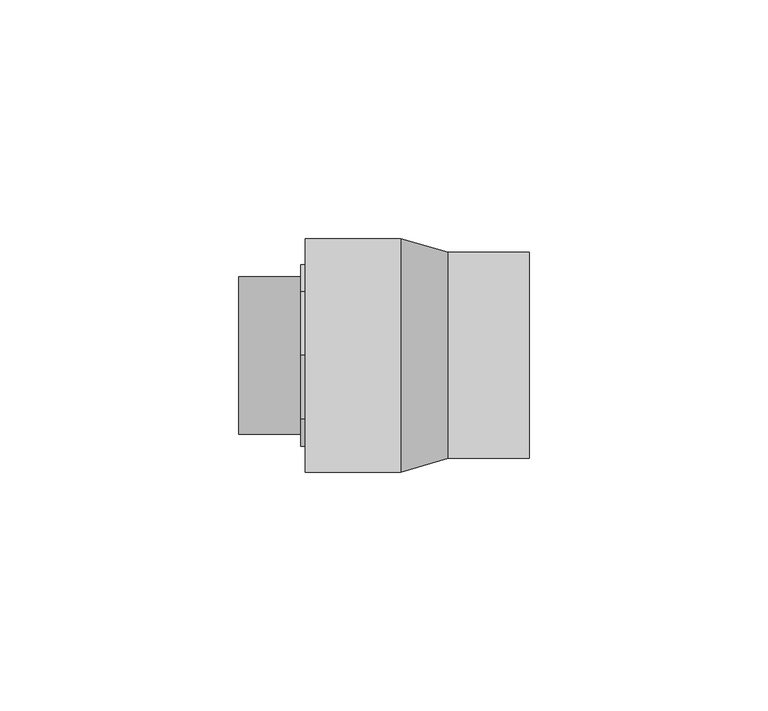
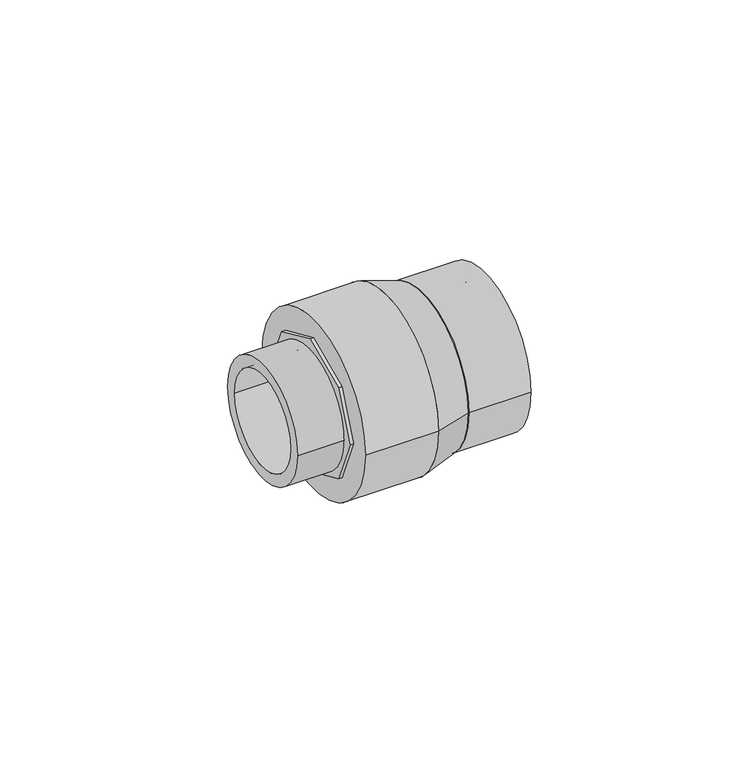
"""IFC4 building model written with IfcOpenShell, lengths in millimetres: pipe fitting geometry, 22_Муфта комбинировання под ключ НР : Белый цвет."""

from ifc_helpers import new_model, si_unit, point, frame, origin, origin_2d, place, context, project, spatial, polyline, circle_curve, trimmed, segment, composite_curve, outline, extrude, source, transform, mapped, element, save
from ifc_brep_helpers import plane_surface, cylinder_surface, revolved_surface, advanced_brep


def pipe_fitting_2798e5e2(model_context):
    return source(origin(), model_context, "Body", "SolidModel", [
        extrude(outline(polyline([(13.4350288, 13.1616066), (19.0, 0.0), (13.4350288, -13.1616066), (0.0, -19.1706932), (-13.4350288, -13.1616066), (-19.0, 0.0), (-13.4350288, 13.1616066), (0.0, 19.1706932), (13.4350288, 13.1616066)]), holes=[composite_curve([segment(trimmed(circle_curve(origin_2d(), 13.25), [point((-13.25, 0.0))], [point((13.25, 0.0))], True, "CARTESIAN"), True, "CONTINUOUS"), segment(trimmed(circle_curve(origin_2d(), 13.25), [point((13.25, 0.0))], [point((-13.25, 0.0))], True, "CARTESIAN"), True, "CONTINUOUS")], self_intersect=False)]), frame((-24.5, 0.0, 0.0), z_axis=(1.0, 0.0, 0.0), x_axis=(0.0, 1.0, 0.0)), (0.0, 0.0, 1.0), 1.0),
        advanced_brep(
        [(-37.5, 16.5, 0.0), (-37.5, -16.5, 0.0), (-37.5, 13.25, 0.0), (-37.5, -13.25, 0.0), (-8.0, 16.5, 0.0), (-8.0, -16.5, 0.0), (-8.0, 13.25, 0.0), (-8.0, -13.25, 0.0), (-24.5, -13.25, 0.0), (-23.5, -13.25, 0.0), (-23.5, 13.25, 0.0), (-24.5, 13.25, 0.0)],
        [
            (0, 1, circle_curve(frame((-37.5, 0.0, 0.0), z_axis=(-1.0, 0.0, 0.0), x_axis=(0.0, -1.0, 0.0)), 16.5)),
            (1, 0, circle_curve(frame((-37.5, 0.0, 0.0), z_axis=(-1.0, 0.0, 0.0), x_axis=(0.0, -1.0, 0.0)), 16.5)),
            (2, 3, circle_curve(frame((-37.5, 0.0, 0.0), z_axis=(1.0, 0.0, 0.0), x_axis=(0.0, -1.0, 0.0)), 13.25)),
            (3, 2, circle_curve(frame((-37.5, 0.0, 0.0), z_axis=(1.0, 0.0, 0.0), x_axis=(0.0, -1.0, 0.0)), 13.25)),
            (4, 5, circle_curve(frame((-8.0, 0.0, 0.0), z_axis=(1.0, 0.0, 0.0), x_axis=(0.0, -1.0, 0.0)), 16.5)),
            (5, 4, circle_curve(frame((-8.0, 0.0, 0.0), z_axis=(1.0, 0.0, 0.0), x_axis=(0.0, -1.0, 0.0)), 16.5)),
            (6, 7, circle_curve(frame((-8.0, 0.0, 0.0), z_axis=(-1.0, 0.0, 0.0), x_axis=(0.0, -1.0, 0.0)), 13.25)),
            (7, 6, circle_curve(frame((-8.0, 0.0, 0.0), z_axis=(-1.0, 0.0, 0.0), x_axis=(0.0, -1.0, 0.0)), 13.25)),
            (3, 8),
            (8, 9),
            (9, 7),
            (6, 10),
            (10, 11),
            (11, 2),
            (1, 5),
            (4, 0),
        ],
        [
            plane_surface(frame((-37.5, -13.25, 0.0), z_axis=(-1.0, 0.0, 0.0), x_axis=(0.0, 0.0, -1.0))),
            plane_surface(frame((-8.0, -13.25, 0.0), z_axis=(1.0, 0.0, 0.0), x_axis=(0.0, 0.0, 1.0))),
            revolved_surface(polyline([(-8.0, -13.25, 0.0), (-37.5, -13.25, 0.0)]), (-8.0, 0.0, 0.0), (1.0, 0.0, 0.0)),
            cylinder_surface(frame((-23.5, 0.0, 0.0), z_axis=(-1.0, 0.0, 0.0), x_axis=(0.0, -1.0, 0.0)), 16.5),
        ],
        [
            (0, [[1, 2], [3, 4]]),
            (1, [[5, 6], [7, 8]]),
            (2, [[-4, 9, 10, 11, -7, 12, 13, 14]]),
            (2, [[-3, -14, -13, -12, -8, -11, -10, -9]]),
            (3, [[-2, 15, -5, 16]]),
            (3, [[-1, -16, -6, -15]]),
        ],
    ),
        extrude(outline(composite_curve([segment(trimmed(circle_curve(origin_2d(), 24.5), [point((-24.5, 0.0))], [point((24.5, 0.0))], False, "CARTESIAN"), True, "CONTINUOUS"), segment(trimmed(circle_curve(origin_2d(), 24.5), [point((24.5, 0.0))], [point((-24.5, 0.0))], False, "CARTESIAN"), True, "CONTINUOUS")], self_intersect=False), holes=[composite_curve([segment(trimmed(circle_curve(origin_2d(), 13.25), [point((-13.25, 0.0))], [point((13.25, 0.0))], True, "CARTESIAN"), True, "CONTINUOUS"), segment(trimmed(circle_curve(origin_2d(), 13.25), [point((13.25, 0.0))], [point((-13.25, 0.0))], True, "CARTESIAN"), True, "CONTINUOUS")], self_intersect=False)]), frame((-23.5, 0.0, 0.0), z_axis=(1.0, 0.0, 0.0), x_axis=(0.0, 1.0, 0.0)), (0.0, 0.0, 1.0), 20.0),
        extrude(outline(composite_curve([segment(trimmed(circle_curve(origin_2d(), 21.6), [point((-21.6, 0.0))], [point((21.6, 0.0))], False, "CARTESIAN"), True, "CONTINUOUS"), segment(trimmed(circle_curve(origin_2d(), 21.6), [point((21.6, 0.0))], [point((-21.6, 0.0))], False, "CARTESIAN"), True, "CONTINUOUS")], self_intersect=False), holes=[composite_curve([segment(trimmed(circle_curve(origin_2d(), 16.0), [point((-16.0, 0.0))], [point((16.0, 0.0))], True, "CARTESIAN"), True, "CONTINUOUS"), segment(trimmed(circle_curve(origin_2d(), 16.0), [point((16.0, 0.0))], [point((-16.0, 0.0))], True, "CARTESIAN"), True, "CONTINUOUS")], self_intersect=False)]), frame((6.5, 0.0, 0.0), z_axis=(1.0, 0.0, 0.0), x_axis=(0.0, 1.0, 0.0)), (0.0, 0.0, 1.0), 17.0),
        advanced_brep(
        [(6.5, -21.6, 0.0), (6.5, 21.6, 0.0), (6.5, 16.0, 0.0), (6.5, -16.0, 0.0), (-3.5, -24.5, 0.0), (-3.5, 24.5, 0.0), (-3.5, -13.25, 0.0), (-3.5, 13.25, 0.0)],
        [
            (0, 1, circle_curve(frame((6.5, 0.0, 0.0), z_axis=(1.0, 0.0, 0.0), x_axis=(0.0, -1.0, 0.0)), 21.6)),
            (1, 0, circle_curve(frame((6.5, 0.0, 0.0), z_axis=(1.0, 0.0, 0.0), x_axis=(0.0, 1.0, 0.0)), 21.6)),
            (2, 3, circle_curve(frame((6.5, 0.0, 0.0), z_axis=(-1.0, 0.0, 0.0), x_axis=(0.0, -1.0, 0.0)), 16.0)),
            (3, 2, circle_curve(frame((6.5, 0.0, 0.0), z_axis=(-1.0, 0.0, 0.0), x_axis=(0.0, 1.0, 0.0)), 16.0)),
            (4, 5, circle_curve(frame((-3.5, 0.0, 0.0), z_axis=(-1.0, 0.0, 0.0), x_axis=(0.0, 1.0, 0.0)), 24.5)),
            (5, 4, circle_curve(frame((-3.5, 0.0, 0.0), z_axis=(-1.0, 0.0, 0.0), x_axis=(0.0, -1.0, 0.0)), 24.5)),
            (6, 7, circle_curve(frame((-3.5, 0.0, 0.0), z_axis=(1.0, 0.0, 0.0), x_axis=(0.0, -1.0, 0.0)), 13.25)),
            (7, 6, circle_curve(frame((-3.5, 0.0, 0.0), z_axis=(1.0, 0.0, 0.0), x_axis=(0.0, 1.0, 0.0)), 13.25)),
            (0, 4),
            (5, 1),
            (6, 3),
            (2, 7),
        ],
        [
            plane_surface(frame((6.5, 0.0, 0.0), z_axis=(1.0, 0.0, 0.0), x_axis=(0.0, 0.0, -1.0))),
            plane_surface(frame((-3.5, 0.0, 0.0), z_axis=(-1.0, 0.0, 0.0), x_axis=(0.0, 0.0, -1.0))),
            revolved_surface(polyline([(6.5, -21.599999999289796, 0.0), (-3.5, -24.5, 0.0)]), (80.9827586, 0.0, 0.0), (-1.0, 0.0, 0.0)),
            revolved_surface(polyline([(6.5, 21.599999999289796, 0.0), (-3.5, 24.5, 0.0)]), (80.9827586, 0.0, 0.0), (-1.0, 0.0, 0.0)),
            revolved_surface(polyline([(6.5, -16.0, 0.0), (-3.5, -13.250000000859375, 0.0)]), (-51.6818182, 0.0, 0.0), (1.0, 0.0, 0.0)),
        ],
        [
            (0, [[1, 2], [3, 4]]),
            (1, [[5, 6], [7, 8]]),
            (2, [[-1, 9, -6, 10]]),
            (3, [[-2, -10, -5, -9]]),
            (4, [[11, -3, 12, -7]]),
            (4, [[-11, -8, -12, -4]]),
        ],
    ),
    ])


if __name__ == "__main__":
    model = new_model("IFC4")
    model_context = context("Model", 3, world=origin())
    ifc_project = project(units=[si_unit("LENGTHUNIT", "METRE", prefix="MILLI")], contexts=[model_context])
    site = spatial("IfcSite", under=ifc_project)
    building = spatial("IfcBuilding", under=site)
    placement = place(None, origin())
    pipe_fitting_shape = pipe_fitting_2798e5e2(model_context)
    element("IfcPipeFitting", 1, ObjectType="22_Муфта комбинировання под ключ НР : Белый цвет", at=placement, inside=building, context=model_context, shape_type="MappedRepresentation", body=[
        mapped(pipe_fitting_shape, transform((0.0, 0.0, 0.0), x_axis=(1.0, 0.0, 0.0), y_axis=(0.0, 1.0, 0.0), z_axis=(0.0, 0.0, 1.0))),
    ])
    save(model, "model.ifc")
